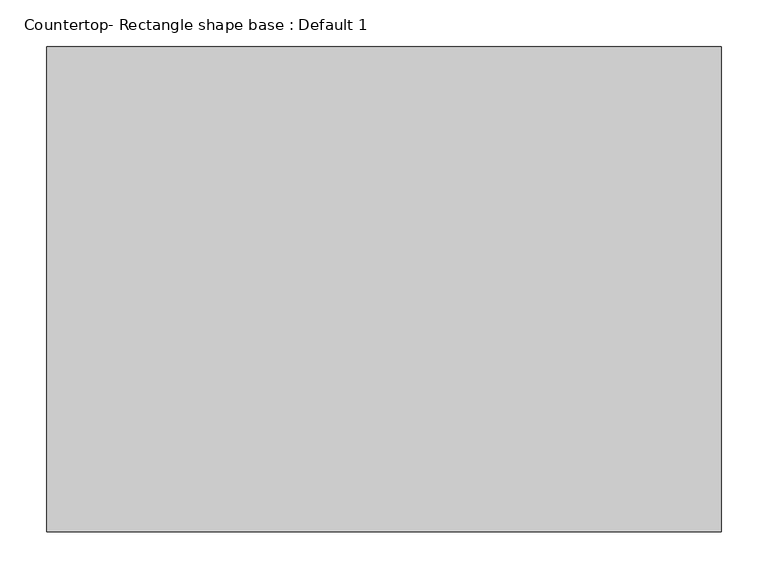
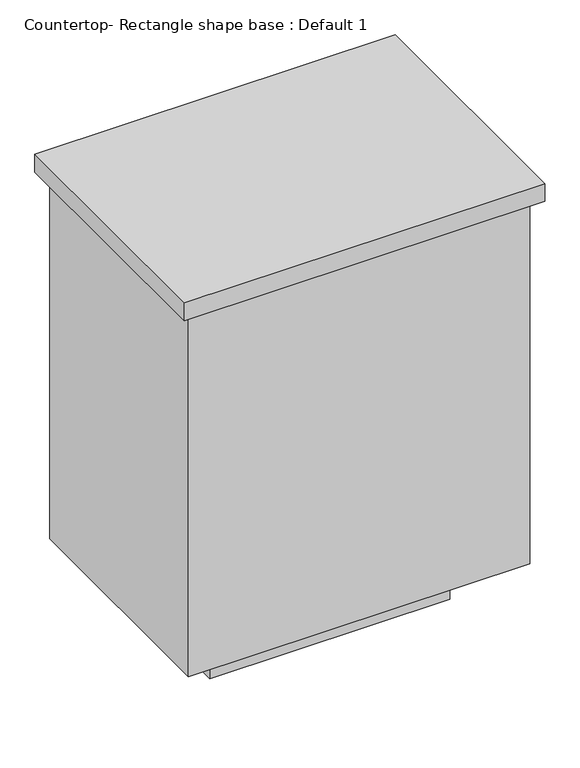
"""IFC4 building model written with IfcOpenShell, lengths in millimetres: proxy geometry, Countertop- Rectangle shape base : Default 1."""

import ifcopenshell
import ifcopenshell.guid

model = None  # the IFC model being written
_history = None  # IfcOwnerHistory: only IFC2X3 demands one
_inside = {}  # id of a spatial element -> (the spatial element, [elements in it])
_under = {}  # id of a project, library or spatial element -> (it, [spatial elements below it])
_declared = {}  # id of a project -> (the project, [libraries it declares])
_typed = {}  # id of a type object -> (the type object, [elements of that type])
_made_of = {}  # id of a material, layer set ... -> (it, [elements and type objects made of it])


def new_model(schema):
    """Start an empty IFC model of exactly this schema.

    Asked for "IFC4X3", IfcOpenShell would pick the latest addendum, in which some entities
    have other attributes; the version numbers below select the first issue.
    IFC2X3 requires an IfcOwnerHistory on every rooted entity: one is made here for all.
    """
    global model, _history
    if schema == "IFC4X3":
        model = ifcopenshell.file(schema_version=(4, 3, 0, 0))
    else:
        model = ifcopenshell.file(schema=schema)
    _inside.clear()
    _under.clear()
    _declared.clear()
    _typed.clear()
    _made_of.clear()
    _history = None
    if model.schema == "IFC2X3":
        org = make("IfcOrganization", Name="unknown")
        user = make(
            "IfcPersonAndOrganization",
            ThePerson=make("IfcPerson", FamilyName="unknown"),
            TheOrganization=org,
        )
        app = make(
            "IfcApplication",
            ApplicationDeveloper=org,
            Version="unknown",
            ApplicationFullName="unknown",
            ApplicationIdentifier="unknown",
        )
        _history = make(
            "IfcOwnerHistory",
            OwningUser=user,
            OwningApplication=app,
            ChangeAction="ADDED",
            CreationDate=0,
        )
    return model


def make(cls, **values):
    """One entity of the class cls with the attributes given. An attribute that is None is left unset."""
    return model.create_entity(
        cls, **{name: value for name, value in values.items() if value is not None}
    )


def rooted(cls, **values):
    """An entity with a GlobalId (a new one), such as an element, a storey or a relation."""
    return make(cls, GlobalId=ifcopenshell.guid.new(), OwnerHistory=_history, **values)


def si_unit(unit_type, name, prefix=None):
    """IfcSIUnit, for example si_unit("LENGTHUNIT", "METRE", prefix="MILLI")."""
    return make("IfcSIUnit", UnitType=unit_type, Prefix=prefix, Name=name)


def assignment(units):
    """IfcUnitAssignment: the units of a project."""
    return None if units is None else make("IfcUnitAssignment", Units=units)


def point(xyz):
    """IfcCartesianPoint."""
    return None if xyz is None else make("IfcCartesianPoint", Coordinates=xyz)


def direction(xyz):
    """IfcDirection."""
    return None if xyz is None else make("IfcDirection", DirectionRatios=xyz)


def frame(location, z_axis=None, x_axis=None):
    """IfcAxis2Placement3D, a coordinate frame: its origin and axes. An axis left out is left unset."""
    return make(
        "IfcAxis2Placement3D",
        Location=point(location),
        Axis=direction(z_axis),
        RefDirection=direction(x_axis),
    )


def origin():
    """The frame at (0, 0, 0) with its axes left unset."""
    return frame((0.0, 0.0, 0.0))


def origin_with_axes():
    """The frame at (0, 0, 0) with the z axis (0, 0, 1) and the x axis (1, 0, 0) written out."""
    return frame((0.0, 0.0, 0.0), z_axis=(0.0, 0.0, 1.0), x_axis=(1.0, 0.0, 0.0))


def place(relative_to, where):
    """IfcLocalPlacement: puts the frame where relative to a parent placement (None: the world)."""
    return make(
        "IfcLocalPlacement", PlacementRelTo=relative_to, RelativePlacement=where
    )


def context(
    kind, dimensions, precision=None, world=None, true_north=None, identifier=None
):
    """IfcGeometricRepresentationContext, for example the 3D "Model" context."""
    return make(
        "IfcGeometricRepresentationContext",
        ContextIdentifier=identifier,
        ContextType=kind,
        CoordinateSpaceDimension=dimensions,
        Precision=precision,
        WorldCoordinateSystem=world,
        TrueNorth=true_north,
    )


def project(units=None, contexts=None):
    """IfcProject with its units and contexts."""
    return rooted(
        "IfcProject",
        Name="project",
        RepresentationContexts=contexts,
        UnitsInContext=assignment(units),
    )


def spatial(cls, under=None, at=None, **own):
    """A site, building, storey or space (cls), placed at a placement, below another one or the project."""
    s = rooted(cls, ObjectPlacement=at, **own)
    if under is not None:
        _under.setdefault(under.id(), (under, []))[1].append(s)
    return s


def polyline(points):
    """IfcPolyline through the points."""
    return make("IfcPolyline", Points=[point(p) for p in points])


def outline(outer, holes=None, kind="AREA"):
    """IfcArbitraryClosedProfileDef: a profile drawn as a closed curve; with holes, ...WithVoids."""
    if holes is None:
        return make("IfcArbitraryClosedProfileDef", ProfileType=kind, OuterCurve=outer)
    return make(
        "IfcArbitraryProfileDefWithVoids",
        ProfileType=kind,
        OuterCurve=outer,
        InnerCurves=holes,
    )


def extrude(swept, where, along, depth):
    """IfcExtrudedAreaSolid: the profile swept, set in the frame where, extruded along a direction by depth."""
    return make(
        "IfcExtrudedAreaSolid",
        SweptArea=swept,
        Position=where,
        ExtrudedDirection=direction(along),
        Depth=depth,
    )


def shape(context_of_items, identifier, shape_type, items):
    """IfcShapeRepresentation: the items that make up one representation, for example the "Body"."""
    return make(
        "IfcShapeRepresentation",
        ContextOfItems=context_of_items,
        RepresentationIdentifier=identifier,
        RepresentationType=shape_type,
        Items=items,
    )


def source(mapping_origin, context_of_items, identifier, shape_type, items):
    """IfcRepresentationMap: a shape defined once, which mapped items show again and again."""
    return make(
        "IfcRepresentationMap",
        MappingOrigin=mapping_origin,
        MappedRepresentation=shape(context_of_items, identifier, shape_type, items),
    )


def transform(
    local_origin,
    x_axis=None,
    y_axis=None,
    z_axis=None,
    scale=None,
    scale2=None,
    scale3=None,
    uniform=True,
):
    """IfcCartesianTransformationOperator3D, or its non-uniform kind. x_axis, y_axis, z_axis: its Axis1, 2, 3."""
    if uniform:
        return make(
            "IfcCartesianTransformationOperator3D",
            Axis1=direction(x_axis),
            Axis2=direction(y_axis),
            LocalOrigin=point(local_origin),
            Scale=scale,
            Axis3=direction(z_axis),
        )
    return make(
        "IfcCartesianTransformationOperator3DnonUniform",
        Axis1=direction(x_axis),
        Axis2=direction(y_axis),
        LocalOrigin=point(local_origin),
        Scale=scale,
        Axis3=direction(z_axis),
        Scale2=scale2,
        Scale3=scale3,
    )


def mapped(mapping_source, mapping_target):
    """IfcMappedItem: shows the shape of a source again, moved by a transform."""
    return make(
        "IfcMappedItem", MappingSource=mapping_source, MappingTarget=mapping_target
    )


def made_of(thing, what):
    """Note that an element or type object is made of a material, layer set ...; save() writes the relation."""
    if what is not None:
        _made_of.setdefault(what.id(), (what, []))[1].append(thing)
    return thing


def element(
    cls,
    number,
    at=None,
    inside=None,
    cuts=None,
    type_object=None,
    material=None,
    context=None,
    identifier="Body",
    shape_type=None,
    held_by="IfcProductDefinitionShape",
    body=None,
    shapes=None,
    **own,
):
    """One element of the class cls, such as IfcWall. Its Tag is "e" and its number.

    at: its placement. inside: the storey or other place that contains it. cuts: it is an
    opening in that element (IfcRelVoidsElement). A single representation is given by context,
    identifier, shape_type and body (its items); several are given by shapes. held_by: the class
    of the entity that holds the representations. save() writes the other relations.
    """
    e = rooted(cls, Tag="e%d" % number, ObjectPlacement=at, **own)
    if body is not None:
        shapes = [shape(context, identifier, shape_type, body)]
    if shapes is not None:
        e.Representation = make(held_by, Representations=shapes)
    if inside is not None:
        _inside.setdefault(inside.id(), (inside, []))[1].append(e)
    if cuts is not None:
        rooted(
            "IfcRelVoidsElement", RelatingBuildingElement=cuts, RelatedOpeningElement=e
        )
    if type_object is not None:
        _typed.setdefault(type_object.id(), (type_object, []))[1].append(e)
    return made_of(e, material)


def aggregate(whole, parts):
    """IfcRelAggregates: a whole, such as a stair, and the parts it consists of."""
    return rooted("IfcRelAggregates", RelatingObject=whole, RelatedObjects=parts)


def save(model, path):
    """Write the relations noted so far, then the file.

    IfcRelAggregates (storeys below a building ...), IfcRelContainedInSpatialStructure (elements
    in a storey), IfcRelDefinesByType, IfcRelAssociatesMaterial and IfcRelDeclares: one each for
    every whole, place, type object, material and project.
    """
    for whole, parts in _under.values():
        aggregate(whole, parts)
    for where, things in _inside.values():
        rooted(
            "IfcRelContainedInSpatialStructure",
            RelatedElements=things,
            RelatingStructure=where,
        )
    for kind, things in _typed.values():
        rooted("IfcRelDefinesByType", RelatedObjects=things, RelatingType=kind)
    for what, things in _made_of.values():
        rooted("IfcRelAssociatesMaterial", RelatedObjects=things, RelatingMaterial=what)
    for by, libraries in _declared.values():
        rooted("IfcRelDeclares", RelatingContext=by, RelatedDefinitions=libraries)
    model.write(path)


def countertop_rectangle_shape_base_default_1_9c208747(model_context):
    return source(origin(), model_context, "Body", "SweptSolid", [
        extrude(outline(polyline([(400.05, 120.65), (400.05, 641.35), (1123.95, 641.35), (1123.95, 120.65), (400.05, 120.65)])), frame((0.0, 0.0, 876.3), z_axis=(0.0, 0.0, 1.0), x_axis=(1.0, 0.0, 0.0)), (0.0, 0.0, 1.0), 38.1),
        extrude(outline(polyline([(1104.9, 622.3), (1104.9, 139.7), (419.1, 139.7), (419.1, 622.3), (1104.9, 622.3)])), frame((0.0, 0.0, 101.6), z_axis=(0.0, 0.0, 1.0), x_axis=(1.0, 0.0, 0.0)), (0.0, 0.0, 1.0), 774.7),
        extrude(outline(polyline([(1003.3, 520.7), (1003.3, 241.3), (520.7, 241.3), (520.7, 520.7), (1003.3, 520.7)])), origin_with_axes(), (0.0, 0.0, 1.0), 101.6),
    ])


if __name__ == "__main__":
    model = new_model("IFC4")
    model_context = context("Model", 3, world=origin())
    ifc_project = project(units=[si_unit("LENGTHUNIT", "METRE", prefix="MILLI")], contexts=[model_context])
    site = spatial("IfcSite", under=ifc_project)
    building = spatial("IfcBuilding", under=site)
    placement = place(None, origin())
    countertop_rectangle_shape_base_default_1_shape = countertop_rectangle_shape_base_default_1_9c208747(model_context)
    element("IfcBuildingElementProxy", 1, Name="Countertop- Rectangle shape base : Default 1", ObjectType="Countertop- Rectangle shape base : Default 1", at=placement, inside=building, context=model_context, shape_type="MappedRepresentation", body=[
        mapped(countertop_rectangle_shape_base_default_1_shape, transform((0.0, 0.0, 0.0), x_axis=(1.0, 0.0, 0.0), y_axis=(0.0, 1.0, 0.0), z_axis=(0.0, 0.0, 1.0))),
    ])
    save(model, "model.ifc")
